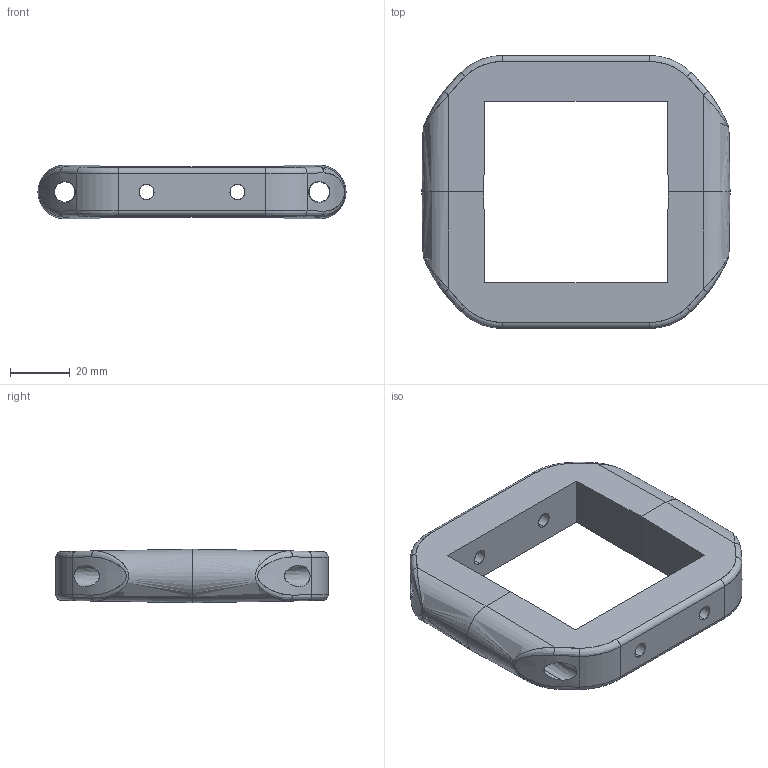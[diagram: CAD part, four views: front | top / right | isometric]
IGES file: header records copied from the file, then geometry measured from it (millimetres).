
Start section: SolidWorks IGES file using analytic representation for surfaces
Global section: file name: F:\3B WINRAR\B KATALOGU\DÝÞLÝ SABÝTLEME BÝLEZÝÐÝ\60x60 kelepçe1.IGS; native system: SolidWorks 2008; preprocessor: SolidWorks 2008; author: Administrator; date: 110517.151504; units: millimetre
Bounding box: 103.03 x 91.2 x 17.91 mm (x, y, z)
Surface area: 23177.9 mm2 (no closed solid volume)
Topology: 0 solids, 0 shells, 68 faces, 1268 edges, 1268 vertices
Faces by surface type: bspline 36, revolution 32
